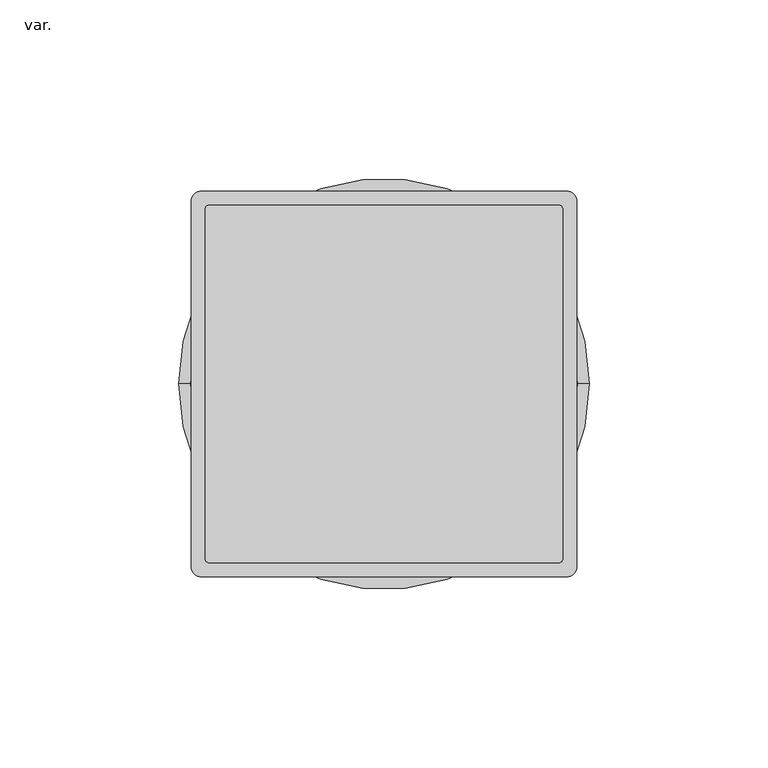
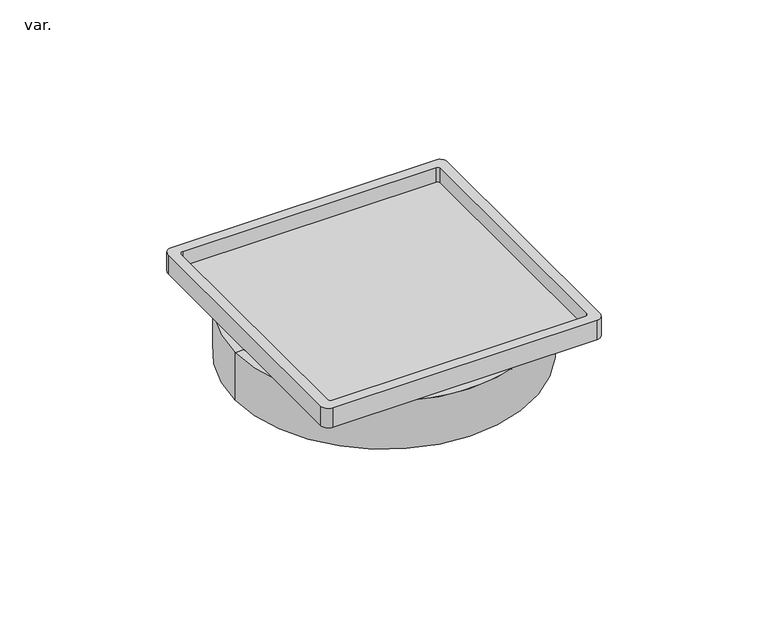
"""IFC4 building model written with IfcOpenShell, lengths in millimetres: pipe fitting geometry, AmancoWavin_Unionesdetubería_PVCNivel1ZNoUsarMarcoPortarrejillaparaPiletadePatio : var.."""

from ifc_helpers import new_model, si_unit, frame, origin, place, context, project, spatial, polyline, circle_curve, source, transform, mapped, element, save
from ifc_brep_helpers import plane_surface, cylinder_surface, revolved_surface, advanced_brep


def var_d318bc15(model_context):
    return source(origin(), model_context, "Body", "AdvancedBrep", [
        advanced_brep(
        [(-18.2453589, 54.0, 7.9), (-120.2453589, 54.0, 7.9), (-123.2453589, 51.0, 7.9), (-123.2453589, -51.0, 7.9), (-120.2453589, -54.0, 7.9), (-18.2453589, -54.0, 7.9), (-15.2453589, -51.0, 7.9), (-15.2453589, 51.0, 7.9), (-119.2453589, 49.0, 7.9), (-118.2453589, 50.0, 7.9), (-20.2453589, 50.0, 7.9), (-19.2453589, 49.0, 7.9), (-19.2453589, -49.0, 7.9), (-20.2453589, -50.0, 7.9), (-118.2453589, -50.0, 7.9), (-119.2453589, -49.0, 7.9), (-18.2453589, 54.0, 0.0), (-15.2453589, 51.0, 0.0), (-15.2453589, -51.0, 0.0), (-18.2453589, -54.0, 0.0), (-120.2453589, -54.0, 0.0), (-123.2453589, -51.0, 0.0), (-123.2453589, 51.0, 0.0), (-120.2453589, 54.0, 0.0), (-118.2453589, 50.0, 1.9), (-119.2453589, 49.0, 1.9), (-119.2453589, -49.0, 1.9), (-118.2453589, -50.0, 1.9), (-20.2453589, -50.0, 1.9), (-19.2453589, -49.0, 1.9), (-19.2453589, 49.0, 1.9), (-20.2453589, 50.0, 1.9)],
        [
            (0, 1),
            (1, 2, circle_curve(frame((-120.2453589, 51.0, 7.9), z_axis=(0.0, 0.0, 1.0), x_axis=(1.0, 0.0, 0.0)), 3.0)),
            (2, 3),
            (3, 4, circle_curve(frame((-120.2453589, -51.0, 7.9), z_axis=(0.0, 0.0, 1.0), x_axis=(1.0, 0.0, 0.0)), 3.0)),
            (4, 5),
            (5, 6, circle_curve(frame((-18.2453589, -51.0, 7.9), z_axis=(0.0, 0.0, 1.0), x_axis=(1.0, 0.0, 0.0)), 3.0)),
            (6, 7),
            (7, 0, circle_curve(frame((-18.2453589, 51.0, 7.9), z_axis=(0.0, 0.0, 1.0), x_axis=(1.0, 0.0, 0.0)), 3.0)),
            (8, 9, circle_curve(frame((-118.2453589, 49.0, 7.9), z_axis=(0.0, 0.0, -1.0), x_axis=(1.0, 0.0, 0.0)), 1.0)),
            (9, 10),
            (10, 11, circle_curve(frame((-20.2453589, 49.0, 7.9), z_axis=(0.0, 0.0, -1.0), x_axis=(1.0, 0.0, 0.0)), 1.0)),
            (11, 12),
            (12, 13, circle_curve(frame((-20.2453589, -49.0, 7.9), z_axis=(0.0, 0.0, -1.0), x_axis=(1.0, 0.0, 0.0)), 1.0)),
            (13, 14),
            (14, 15, circle_curve(frame((-118.2453589, -49.0, 7.9), z_axis=(0.0, 0.0, -1.0), x_axis=(1.0, 0.0, 0.0)), 1.0)),
            (15, 8),
            (16, 17, circle_curve(frame((-18.2453589, 51.0, 0.0), z_axis=(0.0, 0.0, -1.0), x_axis=(1.0, 0.0, 0.0)), 3.0)),
            (17, 18),
            (18, 19, circle_curve(frame((-18.2453589, -51.0, 0.0), z_axis=(0.0, 0.0, -1.0), x_axis=(1.0, 0.0, 0.0)), 3.0)),
            (19, 20),
            (20, 21, circle_curve(frame((-120.2453589, -51.0, 0.0), z_axis=(0.0, 0.0, -1.0), x_axis=(1.0, 0.0, 0.0)), 3.0)),
            (21, 22),
            (22, 23, circle_curve(frame((-120.2453589, 51.0, 0.0), z_axis=(0.0, 0.0, -1.0), x_axis=(1.0, 0.0, 0.0)), 3.0)),
            (23, 16),
            (0, 16),
            (23, 1),
            (22, 2),
            (21, 3),
            (20, 4),
            (19, 5),
            (18, 6),
            (17, 7),
            (24, 25, circle_curve(frame((-118.2453589, 49.0, 1.9), z_axis=(0.0, 0.0, 1.0), x_axis=(1.0, 0.0, 0.0)), 1.0)),
            (25, 26),
            (26, 27, circle_curve(frame((-118.2453589, -49.0, 1.9), z_axis=(0.0, 0.0, 1.0), x_axis=(1.0, 0.0, 0.0)), 1.0)),
            (27, 28),
            (28, 29, circle_curve(frame((-20.2453589, -49.0, 1.9), z_axis=(0.0, 0.0, 1.0), x_axis=(1.0, 0.0, 0.0)), 1.0)),
            (29, 30),
            (30, 31, circle_curve(frame((-20.2453589, 49.0, 1.9), z_axis=(0.0, 0.0, 1.0), x_axis=(1.0, 0.0, 0.0)), 1.0)),
            (31, 24),
            (24, 9),
            (8, 25),
            (15, 26),
            (14, 27),
            (13, 28),
            (12, 29),
            (11, 30),
            (10, 31),
        ],
        [
            plane_surface(frame((-120.2453589, 54.0, 7.9), z_axis=(0.0, 0.0, 1.0), x_axis=(-1.0, 0.0, 0.0))),
            plane_surface(frame((-120.2453589, 54.0, 0.0), z_axis=(0.0, 0.0, -1.0), x_axis=(1.0, 0.0, 0.0))),
            plane_surface(frame((-18.2453589, 54.0, 7.9), z_axis=(0.0, 1.0, 0.0), x_axis=(0.0, 0.0, -1.0))),
            cylinder_surface(frame((-120.2453589, 51.0, 0.0), z_axis=(0.0, 0.0, 1.0), x_axis=(1.0, 0.0, 0.0)), 3.0),
            plane_surface(frame((-123.2453589, 51.0, 7.9), z_axis=(-1.0, 0.0, 0.0), x_axis=(0.0, 0.0, -1.0))),
            cylinder_surface(frame((-120.2453589, -51.0, 0.0), z_axis=(0.0, 0.0, 1.0), x_axis=(1.0, 0.0, 0.0)), 3.0),
            plane_surface(frame((-120.2453589, -54.0, 7.9), z_axis=(0.0, -1.0, 0.0), x_axis=(0.0, 0.0, -1.0))),
            cylinder_surface(frame((-18.2453589, -51.0, 0.0), z_axis=(0.0, 0.0, 1.0), x_axis=(1.0, 0.0, 0.0)), 3.0),
            plane_surface(frame((-15.2453589, -51.0, 7.9), z_axis=(1.0, 0.0, 0.0), x_axis=(0.0, 0.0, -1.0))),
            cylinder_surface(frame((-18.2453589, 51.0, 0.0), z_axis=(0.0, 0.0, 1.0), x_axis=(1.0, 0.0, 0.0)), 3.0),
            plane_surface(frame((-117.2453589, 49.0, 1.9), z_axis=(0.0, 0.0, 1.0), x_axis=(0.0, -1.0, 0.0))),
            revolved_surface(polyline([(-117.2453589, 49.0, 7.9), (-117.2453589, 49.0, 1.9)]), (-118.2453589, 49.0, 1.9), (0.0, 0.0, 1.0)),
            plane_surface(frame((-119.2453589, 49.0, 7.9), z_axis=(1.0, 0.0, 0.0), x_axis=(0.0, 0.0, -1.0))),
            revolved_surface(polyline([(-117.2453589, -49.0, 7.9), (-117.2453589, -49.0, 1.9)]), (-118.2453589, -49.0, 1.9), (0.0, 0.0, 1.0)),
            plane_surface(frame((-118.2453589, -50.0, 7.9), z_axis=(0.0, 1.0, 0.0), x_axis=(0.0, 0.0, -1.0))),
            revolved_surface(polyline([(-19.2453589, -49.0, 7.9), (-19.2453589, -49.0, 1.9)]), (-20.2453589, -49.0, 1.9), (0.0, 0.0, 1.0)),
            plane_surface(frame((-19.2453589, -49.0, 7.9), z_axis=(-1.0, 0.0, 0.0), x_axis=(0.0, 0.0, -1.0))),
            revolved_surface(polyline([(-19.2453589, 49.0, 7.9), (-19.2453589, 49.0, 1.9)]), (-20.2453589, 49.0, 1.9), (0.0, 0.0, 1.0)),
            plane_surface(frame((-20.2453589, 50.0, 7.9), z_axis=(0.0, -1.0, 0.0), x_axis=(0.0, 0.0, -1.0))),
        ],
        [
            (0, [[1, 2, 3, 4, 5, 6, 7, 8], [9, 10, 11, 12, 13, 14, 15, 16]]),
            (1, [[17, 18, 19, 20, 21, 22, 23, 24]]),
            (2, [[-1, 25, -24, 26]]),
            (3, [[-2, -26, -23, 27]]),
            (4, [[-3, -27, -22, 28]]),
            (5, [[-4, -28, -21, 29]]),
            (6, [[-5, -29, -20, 30]]),
            (7, [[-6, -30, -19, 31]]),
            (8, [[-7, -31, -18, 32]]),
            (9, [[-8, -32, -17, -25]]),
            (10, [[33, 34, 35, 36, 37, 38, 39, 40]]),
            (11, [[-33, 41, -9, 42]]),
            (12, [[-34, -42, -16, 43]]),
            (13, [[-35, -43, -15, 44]]),
            (14, [[-36, -44, -14, 45]]),
            (15, [[-37, -45, -13, 46]]),
            (16, [[-38, -46, -12, 47]]),
            (17, [[-39, -47, -11, 48]]),
            (18, [[-40, -48, -10, -41]]),
        ],
    ),
        advanced_brep(
        [(-11.7453589, 0.0, -19.4), (-126.7453589, 0.0, -19.4), (-123.5453589, 0.0, -19.4), (-14.9453589, 0.0, -19.4), (-11.7453589, 0.0, 0.0), (-126.7453589, 0.0, 0.0), (-14.9453589, 0.0, 0.0), (-123.5453589, 0.0, 0.0)],
        [
            (0, 1, circle_curve(frame((-69.2453589, 0.0, -19.4), z_axis=(0.0, 0.0, -1.0), x_axis=(-1.0, 0.0, 0.0)), 57.5)),
            (1, 2),
            (2, 3, circle_curve(frame((-69.2453589, 0.0, -19.4), z_axis=(0.0, 0.0, 1.0), x_axis=(-1.0, 0.0, 0.0)), 54.3)),
            (3, 0),
            (1, 0, circle_curve(frame((-69.2453589, 0.0, -19.4), z_axis=(0.0, 0.0, -1.0), x_axis=(-1.0, 0.0, 0.0)), 57.5)),
            (3, 2, circle_curve(frame((-69.2453589, 0.0, -19.4), z_axis=(0.0, 0.0, 1.0), x_axis=(-1.0, 0.0, 0.0)), 54.3)),
            (4, 5, circle_curve(frame((-69.2453589, 0.0, 0.0), z_axis=(0.0, 0.0, -1.0), x_axis=(-1.0, 0.0, 0.0)), 57.5)),
            (5, 1),
            (0, 4),
            (5, 4, circle_curve(frame((-69.2453589, 0.0, 0.0), z_axis=(0.0, 0.0, -1.0), x_axis=(-1.0, 0.0, 0.0)), 57.5)),
            (6, 7, circle_curve(frame((-69.2453589, 0.0, 0.0), z_axis=(0.0, 0.0, -1.0), x_axis=(-1.0, 0.0, 0.0)), 54.3)),
            (7, 5),
            (4, 6),
            (7, 6, circle_curve(frame((-69.2453589, 0.0, 0.0), z_axis=(0.0, 0.0, -1.0), x_axis=(-1.0, 0.0, 0.0)), 54.3)),
            (2, 7),
            (6, 3),
        ],
        [
            plane_surface(frame((-69.2453589, 0.0, -19.4), z_axis=(0.0, 0.0, -1.0), x_axis=(-1.0, 0.0, 0.0))),
            cylinder_surface(frame((-69.2453589, 0.0, -2192.2150031), z_axis=(0.0, 0.0, 1.0), x_axis=(-1.0, 0.0, 0.0)), 57.5),
            plane_surface(frame((-69.2453589, 0.0, 0.0), z_axis=(0.0, 0.0, 1.0), x_axis=(-1.0, 0.0, 0.0))),
            revolved_surface(polyline([(-123.5453589, 0.0, 0.0), (-123.5453589, 0.0, -19.40000000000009)]), (-69.2453589, 0.0, -2192.2150031), (0.0, 0.0, 1.0)),
        ],
        [
            (0, [[1, 2, 3, 4]]),
            (0, [[5, -4, 6, -2]]),
            (1, [[7, 8, -1, 9]]),
            (1, [[10, -9, -5, -8]]),
            (2, [[11, 12, -7, 13]]),
            (2, [[14, -13, -10, -12]]),
            (3, [[-3, 15, -11, 16]]),
            (3, [[-6, -16, -14, -15]]),
        ],
    ),
    ])


if __name__ == "__main__":
    model = new_model("IFC4")
    model_context = context("Model", 3, world=origin())
    ifc_project = project(units=[si_unit("LENGTHUNIT", "METRE", prefix="MILLI")], contexts=[model_context])
    site = spatial("IfcSite", under=ifc_project)
    building = spatial("IfcBuilding", under=site)
    placement = place(None, origin())
    var_shape = var_d318bc15(model_context)
    element("IfcPipeFitting", 1, ObjectType="AmancoWavin_Unionesdetubería_PVCNivel1ZNoUsarMarcoPortarrejillaparaPiletadePatio : var.", at=placement, inside=building, context=model_context, shape_type="MappedRepresentation", body=[
        mapped(var_shape, transform((0.0, 0.0, 0.0), x_axis=(1.0, 0.0, 0.0), y_axis=(0.0, 1.0, 0.0), z_axis=(0.0, 0.0, 1.0))),
    ])
    save(model, "model.ifc")
